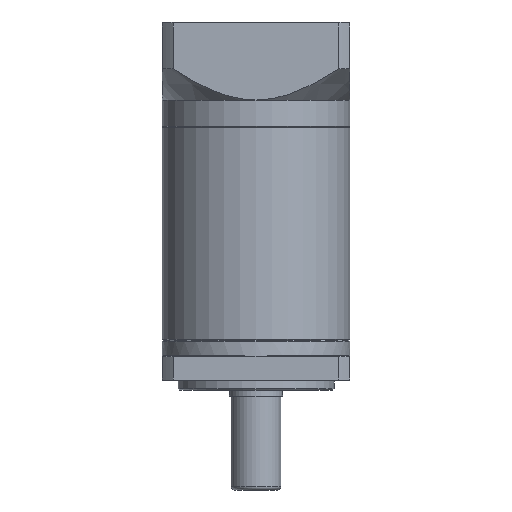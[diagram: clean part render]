
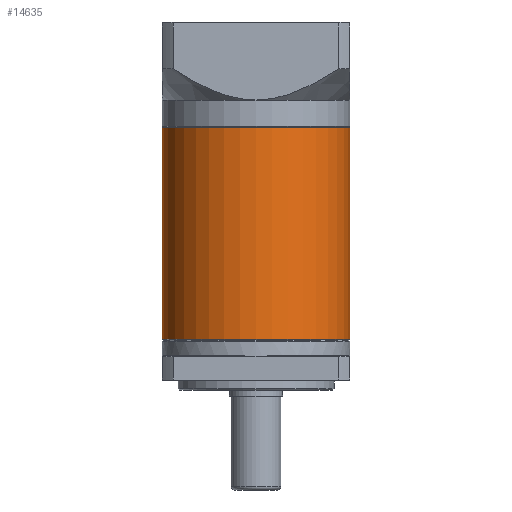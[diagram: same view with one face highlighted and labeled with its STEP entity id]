
A CAD part, front view. The second image highlights one B-rep face of the part: STEP entity #14635.
In plain terms, the highlighted cylindrical face has radius 30 mm (diameter 60 mm), a partial arc.
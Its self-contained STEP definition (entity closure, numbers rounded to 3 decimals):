
#537 = EDGE_CURVE ( 'NONE', #41325, #2975, #26075, .T. ) ;
#1237 = DIRECTION ( 'NONE',  ( 0., 0., -1. ) ) ;
#2975 = VERTEX_POINT ( 'NONE', #69721 ) ;
#3822 = CARTESIAN_POINT ( 'NONE',  ( 31.856, 2.135, 53.9 ) ) ;
#9070 = DIRECTION ( 'NONE',  ( -1., 0., 0. ) ) ;
#11385 = CARTESIAN_POINT ( 'NONE',  ( -28.144, 2.135, 53.9 ) ) ;
#14389 = CIRCLE ( 'NONE', #28528, 30. ) ;
#14629 = ORIENTED_EDGE ( 'NONE', *, *, #87668, .F. ) ;
#14635 = ADVANCED_FACE ( 'NONE', ( #68433 ), #22082, .T. ) ;
#15033 = LINE ( 'NONE', #47356, #32475 ) ;
#20218 = AXIS2_PLACEMENT_3D ( 'NONE', #70903, #26605, #78355 ) ;
#22082 = CYLINDRICAL_SURFACE ( 'NONE', #41535, 30. ) ;
#25242 = VERTEX_POINT ( 'NONE', #3822 ) ;
#26075 = CIRCLE ( 'NONE', #20218, 30. ) ;
#26265 = DIRECTION ( 'NONE',  ( 0., 0., -1. ) ) ;
#26605 = DIRECTION ( 'NONE',  ( 0., 0., -1. ) ) ;
#27469 = DIRECTION ( 'NONE',  ( 0., 0., 1. ) ) ;
#28528 = AXIS2_PLACEMENT_3D ( 'NONE', #71789, #27469, #79225 ) ;
#32461 = DIRECTION ( 'NONE',  ( 0., 0., -1. ) ) ;
#32475 = VECTOR ( 'NONE', #32461, 1000. ) ;
#33671 = CARTESIAN_POINT ( 'NONE',  ( 31.856, 2.135, 121.95 ) ) ;
#35253 = EDGE_CURVE ( 'NONE', #55884, #25242, #14389, .T. ) ;
#37460 = ORIENTED_EDGE ( 'NONE', *, *, #47613, .T. ) ;
#39251 = EDGE_LOOP ( 'NONE', ( #14629, #58056, #37460, #81933 ) ) ;
#41325 = VERTEX_POINT ( 'NONE', #78781 ) ;
#41535 = AXIS2_PLACEMENT_3D ( 'NONE', #75399, #1237, #9070 ) ;
#47356 = CARTESIAN_POINT ( 'NONE',  ( -28.144, 2.135, 121.95 ) ) ;
#47613 = EDGE_CURVE ( 'NONE', #2975, #55884, #15033, .T. ) ;
#55884 = VERTEX_POINT ( 'NONE', #11385 ) ;
#58056 = ORIENTED_EDGE ( 'NONE', *, *, #537, .T. ) ;
#63351 = LINE ( 'NONE', #33671, #83081 ) ;
#68433 = FACE_OUTER_BOUND ( 'NONE', #39251, .T. ) ;
#69721 = CARTESIAN_POINT ( 'NONE',  ( -28.144, 2.135, 121.7 ) ) ;
#70903 = CARTESIAN_POINT ( 'NONE',  ( 1.856, 2.135, 121.7 ) ) ;
#71789 = CARTESIAN_POINT ( 'NONE',  ( 1.856, 2.135, 53.9 ) ) ;
#75399 = CARTESIAN_POINT ( 'NONE',  ( 1.856, 2.135, 121.95 ) ) ;
#78355 = DIRECTION ( 'NONE',  ( 1., 0., 0. ) ) ;
#78781 = CARTESIAN_POINT ( 'NONE',  ( 31.856, 2.135, 121.7 ) ) ;
#79225 = DIRECTION ( 'NONE',  ( 1., 0., 0. ) ) ;
#81933 = ORIENTED_EDGE ( 'NONE', *, *, #35253, .T. ) ;
#83081 = VECTOR ( 'NONE', #26265, 1000. ) ;
#87668 = EDGE_CURVE ( 'NONE', #41325, #25242, #63351, .T. ) ;
